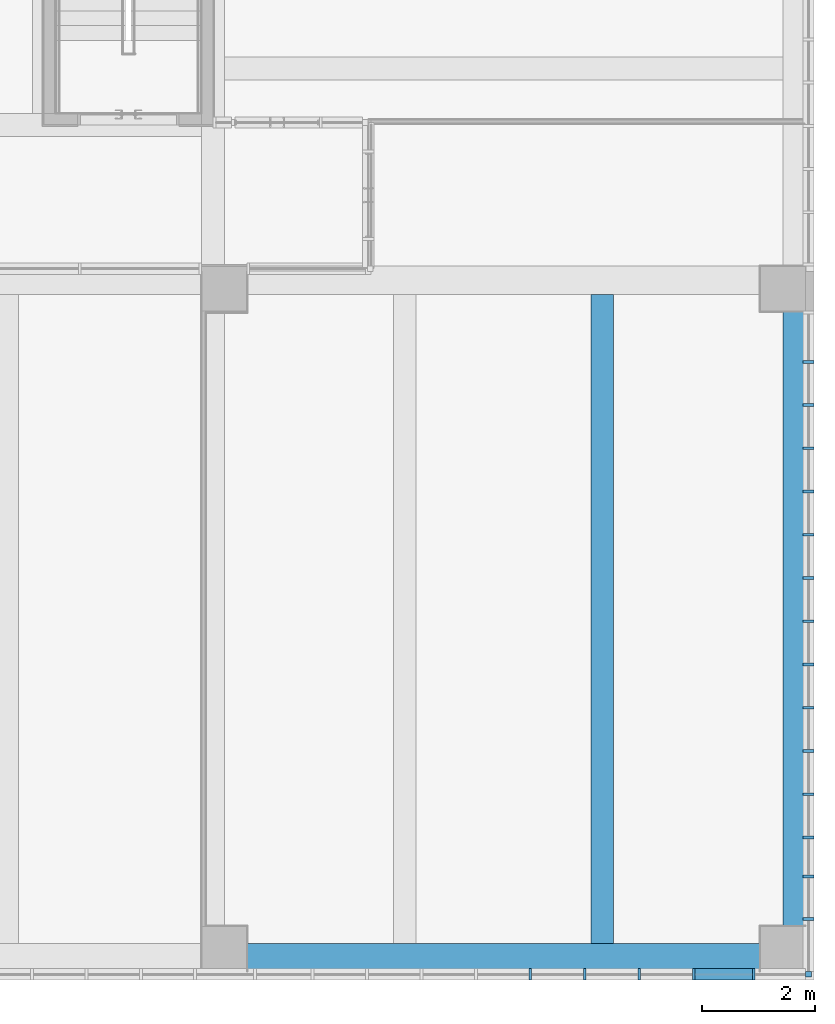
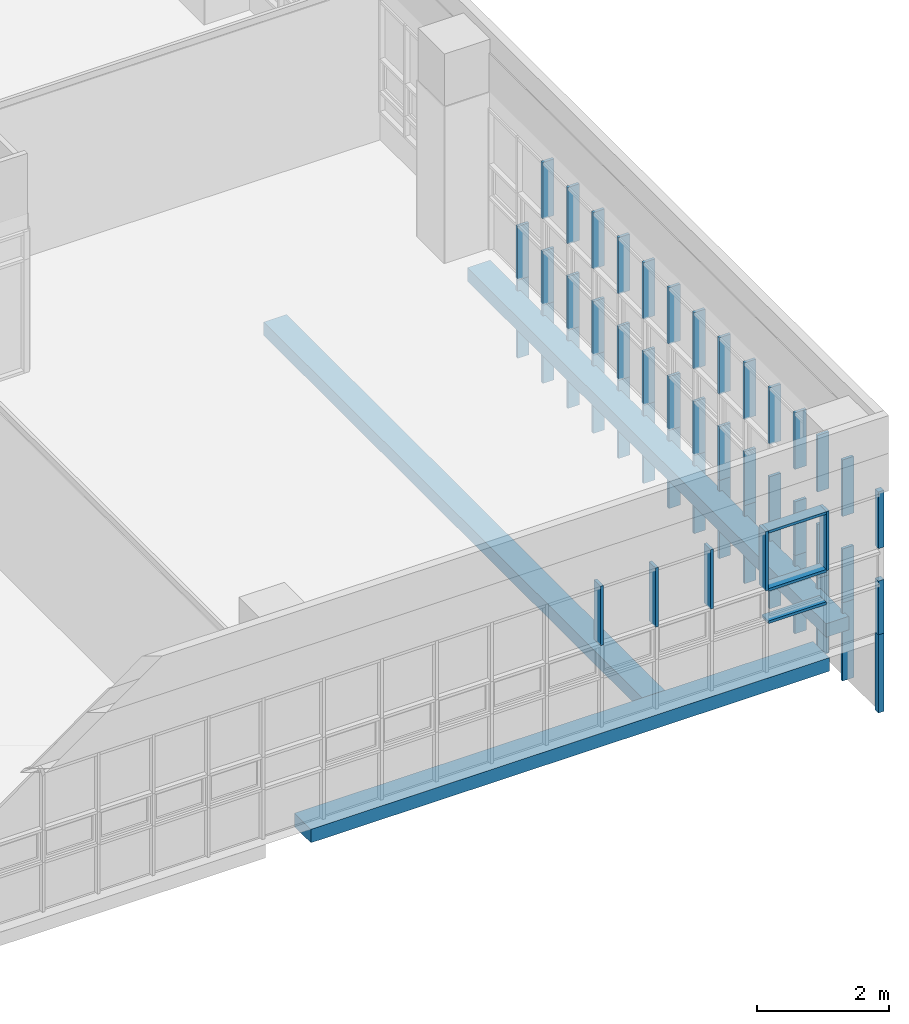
# One storey, part 7 of 81: 52 members, 3 beams, 2 elements without a shape of their own.
"""IFC2X3 building model written with IfcOpenShell, lengths in millimetres."""

import ifcopenshell
import ifcopenshell.guid

model = None  # the IFC model being written
_history = None  # IfcOwnerHistory: only IFC2X3 demands one
_inside = {}  # id of a spatial element -> (the spatial element, [elements in it])
_under = {}  # id of a project, library or spatial element -> (it, [spatial elements below it])
_declared = {}  # id of a project -> (the project, [libraries it declares])
_typed = {}  # id of a type object -> (the type object, [elements of that type])
_made_of = {}  # id of a material, layer set ... -> (it, [elements and type objects made of it])


def new_model(schema):
    """Start an empty IFC model of exactly this schema.

    Asked for "IFC4X3", IfcOpenShell would pick the latest addendum, in which some entities
    have other attributes; the version numbers below select the first issue.
    IFC2X3 requires an IfcOwnerHistory on every rooted entity: one is made here for all.
    """
    global model, _history
    if schema == "IFC4X3":
        model = ifcopenshell.file(schema_version=(4, 3, 0, 0))
    else:
        model = ifcopenshell.file(schema=schema)
    _inside.clear()
    _under.clear()
    _declared.clear()
    _typed.clear()
    _made_of.clear()
    _history = None
    if model.schema == "IFC2X3":
        org = make("IfcOrganization", Name="unknown")
        user = make(
            "IfcPersonAndOrganization",
            ThePerson=make("IfcPerson", FamilyName="unknown"),
            TheOrganization=org,
        )
        app = make(
            "IfcApplication",
            ApplicationDeveloper=org,
            Version="unknown",
            ApplicationFullName="unknown",
            ApplicationIdentifier="unknown",
        )
        _history = make(
            "IfcOwnerHistory",
            OwningUser=user,
            OwningApplication=app,
            ChangeAction="ADDED",
            CreationDate=0,
        )
    return model


def make(cls, **values):
    """One entity of the class cls with the attributes given. An attribute that is None is left unset."""
    return model.create_entity(
        cls, **{name: value for name, value in values.items() if value is not None}
    )


def entity(cls, *values):
    """Any entity or typed value of the class cls, its attributes in the order of the schema. None: left unset."""
    e = model.create_entity(cls)
    for i, value in enumerate(values):
        if value is not None:
            e[i] = value
    return e


def rooted(cls, **values):
    """An entity with a GlobalId (a new one), such as an element, a storey or a relation."""
    return make(cls, GlobalId=ifcopenshell.guid.new(), OwnerHistory=_history, **values)


def si_unit(unit_type, name, prefix=None):
    """IfcSIUnit, for example si_unit("LENGTHUNIT", "METRE", prefix="MILLI")."""
    return make("IfcSIUnit", UnitType=unit_type, Prefix=prefix, Name=name)


def converted_unit(unit_type, name, factor, base, dimensions=None, offset=None):
    """IfcConversionBasedUnit, such as the inch: factor (a typed value) times the base unit."""
    return make(
        "IfcConversionBasedUnit"
        if offset is None
        else "IfcConversionBasedUnitWithOffset",
        ConversionOffset=offset,
        Dimensions=None
        if dimensions is None
        else entity("IfcDimensionalExponents", *dimensions),
        UnitType=unit_type,
        Name=name,
        ConversionFactor=make(
            "IfcMeasureWithUnit", ValueComponent=factor, UnitComponent=base
        ),
    )


def derived_unit(unit_type, elements):
    """IfcDerivedUnit: a product of units, each with its exponent."""
    return make(
        "IfcDerivedUnit",
        Elements=[
            make("IfcDerivedUnitElement", Unit=unit, Exponent=power)
            for unit, power in elements
        ],
        UnitType=unit_type,
    )


def assignment(units):
    """IfcUnitAssignment: the units of a project."""
    return None if units is None else make("IfcUnitAssignment", Units=units)


def point(xyz):
    """IfcCartesianPoint."""
    return None if xyz is None else make("IfcCartesianPoint", Coordinates=xyz)


def direction(xyz):
    """IfcDirection."""
    return None if xyz is None else make("IfcDirection", DirectionRatios=xyz)


def frame(location, z_axis=None, x_axis=None):
    """IfcAxis2Placement3D, a coordinate frame: its origin and axes. An axis left out is left unset."""
    return make(
        "IfcAxis2Placement3D",
        Location=point(location),
        Axis=direction(z_axis),
        RefDirection=direction(x_axis),
    )


def frame_2d(location, x_axis=None):
    """IfcAxis2Placement2D, a coordinate frame in the plane: its origin and x axis."""
    return make(
        "IfcAxis2Placement2D", Location=point(location), RefDirection=direction(x_axis)
    )


def origin():
    """The frame at (0, 0, 0) with its axes left unset."""
    return frame((0.0, 0.0, 0.0))


def origin_2d_with_axis():
    """The frame at (0, 0) in the plane with the x axis (1, 0) written out."""
    return frame_2d((0.0, 0.0), x_axis=(1.0, 0.0))


def place(relative_to, where):
    """IfcLocalPlacement: puts the frame where relative to a parent placement (None: the world)."""
    return make(
        "IfcLocalPlacement", PlacementRelTo=relative_to, RelativePlacement=where
    )


def context(
    kind, dimensions, precision=None, world=None, true_north=None, identifier=None
):
    """IfcGeometricRepresentationContext, for example the 3D "Model" context."""
    return make(
        "IfcGeometricRepresentationContext",
        ContextIdentifier=identifier,
        ContextType=kind,
        CoordinateSpaceDimension=dimensions,
        Precision=precision,
        WorldCoordinateSystem=world,
        TrueNorth=true_north,
    )


def subcontext(parent, identifier, kind, view, scale=None):
    """IfcGeometricRepresentationSubContext, for example "Body" below "Model"."""
    return make(
        "IfcGeometricRepresentationSubContext",
        ContextIdentifier=identifier,
        ContextType=kind,
        ParentContext=parent,
        TargetScale=scale,
        TargetView=view,
    )


def project(units=None, contexts=None):
    """IfcProject with its units and contexts."""
    return rooted(
        "IfcProject",
        Name="project",
        RepresentationContexts=contexts,
        UnitsInContext=assignment(units),
    )


def spatial(cls, under=None, at=None, **own):
    """A site, building, storey or space (cls), placed at a placement, below another one or the project."""
    s = rooted(cls, ObjectPlacement=at, **own)
    if under is not None:
        _under.setdefault(under.id(), (under, []))[1].append(s)
    return s


def profile(cls, at=None, kind="AREA", **sizes):
    """A parametric profile (cls). Its sizes go by their IFC names, for example OverallWidth=200.0."""
    return make(cls, ProfileType=kind, Position=at, **sizes)


def rectangle(**sizes):
    """IfcRectangleProfileDef."""
    return profile("IfcRectangleProfileDef", **sizes)


def extrude(swept, where, along, depth):
    """IfcExtrudedAreaSolid: the profile swept, set in the frame where, extruded along a direction by depth."""
    return make(
        "IfcExtrudedAreaSolid",
        SweptArea=swept,
        Position=where,
        ExtrudedDirection=direction(along),
        Depth=depth,
    )


def shape(context_of_items, identifier, shape_type, items):
    """IfcShapeRepresentation: the items that make up one representation, for example the "Body"."""
    return make(
        "IfcShapeRepresentation",
        ContextOfItems=context_of_items,
        RepresentationIdentifier=identifier,
        RepresentationType=shape_type,
        Items=items,
    )


def source(mapping_origin, context_of_items, identifier, shape_type, items):
    """IfcRepresentationMap: a shape defined once, which mapped items show again and again."""
    return make(
        "IfcRepresentationMap",
        MappingOrigin=mapping_origin,
        MappedRepresentation=shape(context_of_items, identifier, shape_type, items),
    )


def transform(
    local_origin,
    x_axis=None,
    y_axis=None,
    z_axis=None,
    scale=None,
    scale2=None,
    scale3=None,
    uniform=True,
):
    """IfcCartesianTransformationOperator3D, or its non-uniform kind. x_axis, y_axis, z_axis: its Axis1, 2, 3."""
    if uniform:
        return make(
            "IfcCartesianTransformationOperator3D",
            Axis1=direction(x_axis),
            Axis2=direction(y_axis),
            LocalOrigin=point(local_origin),
            Scale=scale,
            Axis3=direction(z_axis),
        )
    return make(
        "IfcCartesianTransformationOperator3DnonUniform",
        Axis1=direction(x_axis),
        Axis2=direction(y_axis),
        LocalOrigin=point(local_origin),
        Scale=scale,
        Axis3=direction(z_axis),
        Scale2=scale2,
        Scale3=scale3,
    )


def mapped(mapping_source, mapping_target):
    """IfcMappedItem: shows the shape of a source again, moved by a transform."""
    return make(
        "IfcMappedItem", MappingSource=mapping_source, MappingTarget=mapping_target
    )


def material(Name=None, Category=None):
    """IfcMaterial."""
    return make("IfcMaterial", Name=Name, Category=Category)


def made_of(thing, what):
    """Note that an element or type object is made of a material, layer set ...; save() writes the relation."""
    if what is not None:
        _made_of.setdefault(what.id(), (what, []))[1].append(thing)
    return thing


def type_object(cls, material=None, **own):
    """A type object (cls), such as IfcWallType, which elements share."""
    return made_of(rooted(cls, **own), material)


def type_shapes(of_type, sources):
    """Give a type object the sources (RepresentationMaps) that its elements show as mapped items."""
    of_type.RepresentationMaps = sources


def element(
    cls,
    number,
    at=None,
    inside=None,
    cuts=None,
    type_object=None,
    material=None,
    context=None,
    identifier="Body",
    shape_type=None,
    held_by="IfcProductDefinitionShape",
    body=None,
    shapes=None,
    **own,
):
    """One element of the class cls, such as IfcWall. Its Tag is "e" and its number.

    at: its placement. inside: the storey or other place that contains it. cuts: it is an
    opening in that element (IfcRelVoidsElement). A single representation is given by context,
    identifier, shape_type and body (its items); several are given by shapes. held_by: the class
    of the entity that holds the representations. save() writes the other relations.
    """
    e = rooted(cls, Tag="e%d" % number, ObjectPlacement=at, **own)
    if body is not None:
        shapes = [shape(context, identifier, shape_type, body)]
    if shapes is not None:
        e.Representation = make(held_by, Representations=shapes)
    if inside is not None:
        _inside.setdefault(inside.id(), (inside, []))[1].append(e)
    if cuts is not None:
        rooted(
            "IfcRelVoidsElement", RelatingBuildingElement=cuts, RelatedOpeningElement=e
        )
    if type_object is not None:
        _typed.setdefault(type_object.id(), (type_object, []))[1].append(e)
    return made_of(e, material)


def aggregate(whole, parts):
    """IfcRelAggregates: a whole, such as a stair, and the parts it consists of."""
    return rooted("IfcRelAggregates", RelatingObject=whole, RelatedObjects=parts)


def save(model, path):
    """Write the relations noted so far, then the file.

    IfcRelAggregates (storeys below a building ...), IfcRelContainedInSpatialStructure (elements
    in a storey), IfcRelDefinesByType, IfcRelAssociatesMaterial and IfcRelDeclares: one each for
    every whole, place, type object, material and project.
    """
    for whole, parts in _under.values():
        aggregate(whole, parts)
    for where, things in _inside.values():
        rooted(
            "IfcRelContainedInSpatialStructure",
            RelatedElements=things,
            RelatingStructure=where,
        )
    for kind, things in _typed.values():
        rooted("IfcRelDefinesByType", RelatedObjects=things, RelatingType=kind)
    for what, things in _made_of.values():
        rooted("IfcRelAssociatesMaterial", RelatedObjects=things, RelatingMaterial=what)
    for by, libraries in _declared.values():
        rooted("IfcRelDeclares", RelatingContext=by, RelatedDefinitions=libraries)
    model.write(path)


model = new_model("IFC2X3")

# Units and contexts
model_context = context("Model", 3, precision=0.01, world=origin(), true_north=direction((6.123031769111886e-17, 1.0)))
body_context = subcontext(model_context, "Body", "Model", "MODEL_VIEW")
ifc_project = project(units=[si_unit("LENGTHUNIT", "METRE", prefix="MILLI"), si_unit("AREAUNIT", "SQUARE_METRE"), si_unit("VOLUMEUNIT", "CUBIC_METRE"), converted_unit("PLANEANGLEUNIT", "DEGREE", entity("IfcRatioMeasure", 0.017453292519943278), si_unit("PLANEANGLEUNIT", "RADIAN"), dimensions=[0, 0, 0, 0, 0, 0, 0]), si_unit("MASSUNIT", "GRAM", prefix="KILO"), derived_unit("MASSDENSITYUNIT", [(si_unit("MASSUNIT", "GRAM", prefix="KILO"), 1), (si_unit("LENGTHUNIT", "METRE"), -3)]), derived_unit("MOMENTOFINERTIAUNIT", [(si_unit("LENGTHUNIT", "METRE"), 4)]), si_unit("TIMEUNIT", "SECOND"), si_unit("FREQUENCYUNIT", "HERTZ"), si_unit("THERMODYNAMICTEMPERATUREUNIT", "DEGREE_CELSIUS"), derived_unit("THERMALTRANSMITTANCEUNIT", [(si_unit("MASSUNIT", "GRAM", prefix="KILO"), 1), (si_unit("THERMODYNAMICTEMPERATUREUNIT", "KELVIN"), -1), (si_unit("TIMEUNIT", "SECOND"), -3)]), derived_unit("VOLUMETRICFLOWRATEUNIT", [(si_unit("LENGTHUNIT", "METRE"), 3), (si_unit("TIMEUNIT", "SECOND"), -1)]), derived_unit("MASSFLOWRATEUNIT", [(si_unit("MASSUNIT", "GRAM", prefix="KILO"), 1), (si_unit("TIMEUNIT", "SECOND"), -1)]), derived_unit("ROTATIONALFREQUENCYUNIT", [(si_unit("TIMEUNIT", "SECOND"), -1)]), si_unit("ELECTRICCURRENTUNIT", "AMPERE"), si_unit("ELECTRICVOLTAGEUNIT", "VOLT"), si_unit("POWERUNIT", "WATT"), si_unit("FORCEUNIT", "NEWTON", prefix="KILO"), si_unit("ILLUMINANCEUNIT", "LUX"), si_unit("LUMINOUSFLUXUNIT", "LUMEN"), si_unit("LUMINOUSINTENSITYUNIT", "CANDELA"), derived_unit("USERDEFINED", [(si_unit("MASSUNIT", "GRAM", prefix="KILO"), -1), (si_unit("LENGTHUNIT", "METRE"), -2), (si_unit("TIMEUNIT", "SECOND"), 3), (si_unit("LUMINOUSFLUXUNIT", "LUMEN"), 1)]), derived_unit("SOUNDPOWERUNIT", [(si_unit("MASSUNIT", "GRAM", prefix="KILO"), 1), (si_unit("LENGTHUNIT", "METRE"), 2), (si_unit("TIMEUNIT", "SECOND"), -3)]), derived_unit("SOUNDPRESSUREUNIT", [(si_unit("MASSUNIT", "GRAM", prefix="KILO"), 1), (si_unit("LENGTHUNIT", "METRE"), -1), (si_unit("TIMEUNIT", "SECOND"), -2)]), derived_unit("LINEARVELOCITYUNIT", [(si_unit("LENGTHUNIT", "METRE"), 1), (si_unit("TIMEUNIT", "SECOND"), -1)]), si_unit("PRESSUREUNIT", "PASCAL"), derived_unit("USERDEFINED", [(si_unit("LENGTHUNIT", "METRE"), -2), (si_unit("MASSUNIT", "GRAM", prefix="KILO"), 1), (si_unit("TIMEUNIT", "SECOND"), -2)]), derived_unit("LINEARFORCEUNIT", [(si_unit("MASSUNIT", "GRAM", prefix="KILO"), 1), (si_unit("LENGTHUNIT", "METRE"), 1), (si_unit("TIMEUNIT", "SECOND"), -2), (si_unit("LENGTHUNIT", "METRE"), -1)]), derived_unit("PLANARFORCEUNIT", [(si_unit("MASSUNIT", "GRAM", prefix="KILO"), 1), (si_unit("LENGTHUNIT", "METRE"), 1), (si_unit("TIMEUNIT", "SECOND"), -2), (si_unit("LENGTHUNIT", "METRE"), -2)])], contexts=[model_context])

# Site, building, storey
site_placement = place(None, frame((-14167.972527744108, -657.2125860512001, 0.0)))
site = spatial("IfcSite", under=ifc_project, at=site_placement, Name="Default", CompositionType="ELEMENT")
building_placement = place(site_placement, origin())
building = spatial("IfcBuilding", under=site, at=building_placement, Name="Sample Building", CompositionType="ELEMENT")
storey_placement = place(building_placement, frame((0.0, 0.0, 13400.0)))
storey = spatial("IfcBuildingStorey", under=building, at=storey_placement, Name="지상 4층", CompositionType="ELEMENT", Elevation=13400.00000000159)

# Curtain wall, members
curtain_wall_type = type_object("IfcCurtainWallType", Name="커튼월:CW112-스테인리스 스틸 커튼월", PredefinedType="NOTDEFINED")
curtain_wall_1_placement = place(storey_placement, frame((0.0, 0.0, -13400.0)))
curtain_wall_1 = element("IfcCurtainWall", 1, at=curtain_wall_1_placement, inside=storey, type_object=curtain_wall_type, Name="커튼월:CW112-스테인리스 스틸 커튼월", ObjectType="커튼월:CW112-스테인리스 스틸 커튼월")
ifc_material_1 = material(Name="<Unnamed>")
member_type_1 = type_object("IfcMemberType", Name="직사각형 멀리언:CW200-직사각형 멀리언 50x200mm", PredefinedType="MULLION", material=ifc_material_1)
shared_shape_1 = source(origin(), body_context, "Body", "SweptSolid", [
    extrude(rectangle(XDim=200.0, YDim=50.0, at=origin_2d_with_axis()), frame((0.0, 0.0, -1100.0), z_axis=(0.0, 0.0, 1.0), x_axis=(0.0, -1.0, 0.0)), (0.0, 0.0, 1.0), 1100.0000000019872),
])
type_shapes(member_type_1, [shared_shape_1])
member_1_placement = place(curtain_wall_1_placement, frame((46590.15607007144, 507.2122951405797, 15000.0), z_axis=(0.0, 0.0, -1.0), x_axis=(1.0, 0.0, 0.0)))
member_1 = element("IfcMember", 2, at=member_1_placement, type_object=member_type_1, material=ifc_material_1, Name="직사각형 멀리언:CW200-직사각형 멀리언 50x200mm", ObjectType="직사각형 멀리언:CW200-직사각형 멀리언 50x200mm", context=body_context, shape_type="MappedRepresentation", body=[
    mapped(shared_shape_1, transform((0.0, 0.0, 0.0), scale=1.0)),
])
member_2_placement = place(curtain_wall_1_placement, frame((47555.15607007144, 507.21229514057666, 15000.0), z_axis=(0.0, 0.0, -1.0), x_axis=(1.0, 0.0, 0.0)))
member_2 = element("IfcMember", 3, at=member_2_placement, type_object=member_type_1, material=ifc_material_1, Name="직사각형 멀리언:CW200-직사각형 멀리언 50x200mm", ObjectType="직사각형 멀리언:CW200-직사각형 멀리언 50x200mm", context=body_context, shape_type="MappedRepresentation", body=[
    mapped(shared_shape_1, transform((0.0, 0.0, 0.0), scale=1.0)),
])
member_3_placement = place(curtain_wall_1_placement, frame((48520.15607007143, 507.21229514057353, 15000.0), z_axis=(0.0, 0.0, -1.0), x_axis=(1.0, 0.0, 0.0)))
member_3 = element("IfcMember", 4, at=member_3_placement, type_object=member_type_1, material=ifc_material_1, Name="직사각형 멀리언:CW200-직사각형 멀리언 50x200mm", ObjectType="직사각형 멀리언:CW200-직사각형 멀리언 50x200mm", context=body_context, shape_type="MappedRepresentation", body=[
    mapped(shared_shape_1, transform((0.0, 0.0, 0.0), scale=1.0)),
])
member_4_placement = place(curtain_wall_1_placement, frame((49485.15607007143, 507.2122951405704, 15000.0), z_axis=(0.0, 0.0, -1.0), x_axis=(1.0, 0.0, 0.0)))
member_4 = element("IfcMember", 5, at=member_4_placement, type_object=member_type_1, material=ifc_material_1, Name="직사각형 멀리언:CW200-직사각형 멀리언 50x200mm", ObjectType="직사각형 멀리언:CW200-직사각형 멀리언 50x200mm", context=body_context, shape_type="MappedRepresentation", body=[
    mapped(shared_shape_1, transform((0.0, 0.0, 0.0), scale=1.0)),
])
member_5_placement = place(curtain_wall_1_placement, frame((50550.15607007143, 507.21229514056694, 15000.0), z_axis=(0.0, 0.0, -1.0), x_axis=(1.0, 0.0, 0.0)))
member_5 = element("IfcMember", 6, at=member_5_placement, type_object=member_type_1, material=ifc_material_1, Name="직사각형 멀리언:CW200-직사각형 멀리언 50x200mm", ObjectType="직사각형 멀리언:CW200-직사각형 멀리언 50x200mm", context=body_context, shape_type="MappedRepresentation", body=[
    mapped(shared_shape_1, transform((0.0, 0.0, 0.0), scale=1.0)),
])
member_type_2 = type_object("IfcMemberType", Name="직사각형 멀리언:CW200-직사각형 멀리언 50x200mm", PredefinedType="MULLION", material=ifc_material_1)
shared_shape_2 = source(origin(), body_context, "Body", "SweptSolid", [
    extrude(rectangle(XDim=200.0, YDim=50.0, at=origin_2d_with_axis()), frame((-25.0, 0.0, -1015.0), z_axis=(0.0, 0.0, 1.0), x_axis=(0.0, -1.0, 0.0)), (0.0, 0.0, 1.0), 1015.000000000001),
])
type_shapes(member_type_2, [shared_shape_2])
member_6_placement = place(curtain_wall_1_placement, frame((50525.15607007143, 507.21229514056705, 16100.0), z_axis=(1.0, 0.0, 0.0), x_axis=(0.0, 0.0, 1.0)))
member_6 = element("IfcMember", 7, at=member_6_placement, type_object=member_type_2, material=ifc_material_1, Name="직사각형 멀리언:CW200-직사각형 멀리언 50x200mm", ObjectType="직사각형 멀리언:CW200-직사각형 멀리언 50x200mm", context=body_context, shape_type="MappedRepresentation", body=[
    mapped(shared_shape_2, transform((0.0, 0.0, 0.0), scale=1.0)),
])
member_type_3 = type_object("IfcMemberType", Name="직사각형 멀리언:CW200-직사각형 멀리언 50x200mm", PredefinedType="MULLION", material=ifc_material_1)
shared_shape_3 = source(origin(), body_context, "Body", "SweptSolid", [
    extrude(rectangle(XDim=200.0, YDim=50.0, at=origin_2d_with_axis()), frame((0.0, 0.0, -1015.0), z_axis=(0.0, 0.0, 1.0), x_axis=(0.0, -1.0, 0.0)), (0.0, 0.0, 1.0), 1014.9999999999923),
])
type_shapes(member_type_3, [shared_shape_3])
member_7_placement = place(curtain_wall_1_placement, frame((50525.15607007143, 507.21229514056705, 14400.0), z_axis=(1.0, 0.0, 0.0), x_axis=(0.0, 0.0, 1.0)))
member_7 = element("IfcMember", 8, at=member_7_placement, type_object=member_type_3, material=ifc_material_1, Name="직사각형 멀리언:CW200-직사각형 멀리언 50x200mm", ObjectType="직사각형 멀리언:CW200-직사각형 멀리언 50x200mm", context=body_context, shape_type="MappedRepresentation", body=[
    mapped(shared_shape_3, transform((0.0, 0.0, 0.0), scale=1.0)),
])
member_8_placement = place(curtain_wall_1_placement, frame((50525.15607007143, 507.21229514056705, 15000.0), z_axis=(1.0, 0.0, 0.0), x_axis=(0.0, 0.0, 1.0)))
member_8 = element("IfcMember", 9, at=member_8_placement, type_object=member_type_3, material=ifc_material_1, Name="직사각형 멀리언:CW200-직사각형 멀리언 50x200mm", ObjectType="직사각형 멀리언:CW200-직사각형 멀리언 50x200mm", context=body_context, shape_type="MappedRepresentation", body=[
    mapped(shared_shape_3, transform((0.0, 0.0, 0.0), scale=1.0)),
])
aggregate(curtain_wall_1, [member_6, member_7, member_8, member_1, member_2, member_3, member_4, member_5])

curtain_wall_2_placement = place(storey_placement, frame((0.0, 0.0, -13400.0)))
curtain_wall_2 = element("IfcCurtainWall", 10, at=curtain_wall_2_placement, inside=storey, type_object=curtain_wall_type, Name="커튼월:CW112-스테인리스 스틸 커튼월", ObjectType="커튼월:CW112-스테인리스 스틸 커튼월")
member_type_4 = type_object("IfcMemberType", Name="직사각형 멀리언:CW200-직사각형 멀리언 100 x 100mm", PredefinedType="MULLION", material=ifc_material_1)
shared_shape_4 = source(origin(), body_context, "Body", "SweptSolid", [
    extrude(rectangle(XDim=100.0, YDim=100.0, at=origin_2d_with_axis()), frame((-50.0, 0.0, -1450.0), z_axis=(0.0, 0.0, 1.0), x_axis=(0.0, -1.0, 0.0)), (0.0, 0.0, 1.0), 1449.9999999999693),
])
type_shapes(member_type_4, [shared_shape_4])
member_9_placement = place(curtain_wall_2_placement, frame((51517.96382893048, 457.17762439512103, 12000.0), z_axis=(0.0, 0.0, -1.0), x_axis=(0.0, -1.0, 0.0)))
member_9 = element("IfcMember", 11, at=member_9_placement, type_object=member_type_4, material=ifc_material_1, Name="직사각형 멀리언:CW200-직사각형 멀리언 100 x 100mm", ObjectType="직사각형 멀리언:CW200-직사각형 멀리언 100 x 100mm", context=body_context, shape_type="MappedRepresentation", body=[
    mapped(shared_shape_4, transform((0.0, 0.0, 0.0), scale=1.0)),
])
member_type_5 = type_object("IfcMemberType", Name="직사각형 멀리언:CW200-직사각형 멀리언 100 x 100mm", PredefinedType="MULLION", material=ifc_material_1)
shared_shape_5 = source(origin(), body_context, "Body", "SweptSolid", [
    extrude(rectangle(XDim=99.99999999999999, YDim=100.0, at=origin_2d_with_axis()), frame((-50.0, 0.0, -1050.0), z_axis=(0.0, 0.0, 1.0), x_axis=(0.0, -1.0, 0.0)), (0.0, 0.0, 1.0), 1050.0000000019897),
])
type_shapes(member_type_5, [shared_shape_5])
member_10_placement = place(curtain_wall_2_placement, frame((51517.96382893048, 457.17762439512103, 15050.0), z_axis=(0.0, 0.0, -1.0), x_axis=(0.0, -1.0, 0.0)))
member_10 = element("IfcMember", 12, at=member_10_placement, type_object=member_type_5, material=ifc_material_1, Name="직사각형 멀리언:CW200-직사각형 멀리언 100 x 100mm", ObjectType="직사각형 멀리언:CW200-직사각형 멀리언 100 x 100mm", context=body_context, shape_type="MappedRepresentation", body=[
    mapped(shared_shape_5, transform((0.0, 0.0, 0.0), scale=1.0)),
])
member_type_6 = type_object("IfcMemberType", Name="직사각형 멀리언:CW200-직사각형 멀리언 50x200mm", PredefinedType="MULLION", material=ifc_material_1)
shared_shape_6 = source(origin(), body_context, "Body", "SweptSolid", [
    extrude(rectangle(XDim=200.0, YDim=50.0, at=origin_2d_with_axis()), frame((0.0, 0.0, -1450.0), z_axis=(0.0, 0.0, 1.0), x_axis=(0.0, -1.0, 0.0)), (0.0, 0.0, 1.0), 1449.9999999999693),
])
type_shapes(member_type_6, [shared_shape_6])
member_11_placement = place(curtain_wall_2_placement, frame((51517.96382893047, 3699.7830363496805, 12000.0), z_axis=(0.0, 0.0, -1.0), x_axis=(0.0, -1.0, 0.0)))
member_11 = element("IfcMember", 13, at=member_11_placement, type_object=member_type_6, material=ifc_material_1, Name="직사각형 멀리언:CW200-직사각형 멀리언 50x200mm", ObjectType="직사각형 멀리언:CW200-직사각형 멀리언 50x200mm", context=body_context, shape_type="MappedRepresentation", body=[
    mapped(shared_shape_6, transform((0.0, 0.0, 0.0), scale=1.0)),
])
member_12_placement = place(curtain_wall_2_placement, frame((51517.96382893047, 2933.7830363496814, 12000.0), z_axis=(0.0, 0.0, -1.0), x_axis=(0.0, -1.0, 0.0)))
member_12 = element("IfcMember", 14, at=member_12_placement, type_object=member_type_6, material=ifc_material_1, Name="직사각형 멀리언:CW200-직사각형 멀리언 50x200mm", ObjectType="직사각형 멀리언:CW200-직사각형 멀리언 50x200mm", context=body_context, shape_type="MappedRepresentation", body=[
    mapped(shared_shape_6, transform((0.0, 0.0, 0.0), scale=1.0)),
])
member_13_placement = place(curtain_wall_2_placement, frame((51517.96382893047, 2241.783036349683, 12000.0), z_axis=(0.0, 0.0, -1.0), x_axis=(0.0, -1.0, 0.0)))
member_13 = element("IfcMember", 15, at=member_13_placement, type_object=member_type_6, material=ifc_material_1, Name="직사각형 멀리언:CW200-직사각형 멀리언 50x200mm", ObjectType="직사각형 멀리언:CW200-직사각형 멀리언 50x200mm", context=body_context, shape_type="MappedRepresentation", body=[
    mapped(shared_shape_6, transform((0.0, 0.0, 0.0), scale=1.0)),
])
member_14_placement = place(curtain_wall_2_placement, frame((51517.96382893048, 1489.7830363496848, 12000.0), z_axis=(0.0, 0.0, -1.0), x_axis=(0.0, -1.0, 0.0)))
member_14 = element("IfcMember", 16, at=member_14_placement, type_object=member_type_6, material=ifc_material_1, Name="직사각형 멀리언:CW200-직사각형 멀리언 50x200mm", ObjectType="직사각형 멀리언:CW200-직사각형 멀리언 50x200mm", context=body_context, shape_type="MappedRepresentation", body=[
    mapped(shared_shape_6, transform((0.0, 0.0, 0.0), scale=1.0)),
])
member_15_placement = place(curtain_wall_2_placement, frame((51517.96382893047, 4465.78303634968, 12000.0), z_axis=(0.0, 0.0, -1.0), x_axis=(0.0, -1.0, 0.0)))
member_15 = element("IfcMember", 17, at=member_15_placement, type_object=member_type_6, material=ifc_material_1, Name="직사각형 멀리언:CW200-직사각형 멀리언 50x200mm", ObjectType="직사각형 멀리언:CW200-직사각형 멀리언 50x200mm", context=body_context, shape_type="MappedRepresentation", body=[
    mapped(shared_shape_6, transform((0.0, 0.0, 0.0), scale=1.0)),
])
member_16_placement = place(curtain_wall_2_placement, frame((51517.96382893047, 5231.783036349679, 12000.0), z_axis=(0.0, 0.0, -1.0), x_axis=(0.0, -1.0, 0.0)))
member_16 = element("IfcMember", 18, at=member_16_placement, type_object=member_type_6, material=ifc_material_1, Name="직사각형 멀리언:CW200-직사각형 멀리언 50x200mm", ObjectType="직사각형 멀리언:CW200-직사각형 멀리언 50x200mm", context=body_context, shape_type="MappedRepresentation", body=[
    mapped(shared_shape_6, transform((0.0, 0.0, 0.0), scale=1.0)),
])
member_17_placement = place(curtain_wall_2_placement, frame((51517.96382893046, 5997.783036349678, 12000.0), z_axis=(0.0, 0.0, -1.0), x_axis=(0.0, -1.0, 0.0)))
member_17 = element("IfcMember", 19, at=member_17_placement, type_object=member_type_6, material=ifc_material_1, Name="직사각형 멀리언:CW200-직사각형 멀리언 50x200mm", ObjectType="직사각형 멀리언:CW200-직사각형 멀리언 50x200mm", context=body_context, shape_type="MappedRepresentation", body=[
    mapped(shared_shape_6, transform((0.0, 0.0, 0.0), scale=1.0)),
])
member_18_placement = place(curtain_wall_2_placement, frame((51517.96382893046, 6763.783036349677, 12000.0), z_axis=(0.0, 0.0, -1.0), x_axis=(0.0, -1.0, 0.0)))
member_18 = element("IfcMember", 20, at=member_18_placement, type_object=member_type_6, material=ifc_material_1, Name="직사각형 멀리언:CW200-직사각형 멀리언 50x200mm", ObjectType="직사각형 멀리언:CW200-직사각형 멀리언 50x200mm", context=body_context, shape_type="MappedRepresentation", body=[
    mapped(shared_shape_6, transform((0.0, 0.0, 0.0), scale=1.0)),
])
member_19_placement = place(curtain_wall_2_placement, frame((51517.96382893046, 7529.783036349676, 12000.0), z_axis=(0.0, 0.0, -1.0), x_axis=(0.0, -1.0, 0.0)))
member_19 = element("IfcMember", 21, at=member_19_placement, type_object=member_type_6, material=ifc_material_1, Name="직사각형 멀리언:CW200-직사각형 멀리언 50x200mm", ObjectType="직사각형 멀리언:CW200-직사각형 멀리언 50x200mm", context=body_context, shape_type="MappedRepresentation", body=[
    mapped(shared_shape_6, transform((0.0, 0.0, 0.0), scale=1.0)),
])
member_20_placement = place(curtain_wall_2_placement, frame((51517.96382893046, 8295.783036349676, 12000.0), z_axis=(0.0, 0.0, -1.0), x_axis=(0.0, -1.0, 0.0)))
member_20 = element("IfcMember", 22, at=member_20_placement, type_object=member_type_6, material=ifc_material_1, Name="직사각형 멀리언:CW200-직사각형 멀리언 50x200mm", ObjectType="직사각형 멀리언:CW200-직사각형 멀리언 50x200mm", context=body_context, shape_type="MappedRepresentation", body=[
    mapped(shared_shape_6, transform((0.0, 0.0, 0.0), scale=1.0)),
])
member_21_placement = place(curtain_wall_2_placement, frame((51517.96382893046, 9061.783036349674, 12000.0), z_axis=(0.0, 0.0, -1.0), x_axis=(0.0, -1.0, 0.0)))
member_21 = element("IfcMember", 23, at=member_21_placement, type_object=member_type_6, material=ifc_material_1, Name="직사각형 멀리언:CW200-직사각형 멀리언 50x200mm", ObjectType="직사각형 멀리언:CW200-직사각형 멀리언 50x200mm", context=body_context, shape_type="MappedRepresentation", body=[
    mapped(shared_shape_6, transform((0.0, 0.0, 0.0), scale=1.0)),
])
member_type_7 = type_object("IfcMemberType", Name="직사각형 멀리언:CW200-직사각형 멀리언 50x200mm", PredefinedType="MULLION", material=ifc_material_1)
shared_shape_7 = source(origin(), body_context, "Body", "SweptSolid", [
    extrude(rectangle(XDim=200.0, YDim=50.0, at=origin_2d_with_axis()), frame((0.0, 0.0, -1050.0), z_axis=(0.0, 0.0, 1.0), x_axis=(0.0, -1.0, 0.0)), (0.0, 0.0, 1.0), 1050.0000000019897),
])
type_shapes(member_type_7, [shared_shape_7])
member_22_placement = place(curtain_wall_2_placement, frame((51517.96382893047, 3699.7830363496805, 15050.0), z_axis=(0.0, 0.0, -1.0), x_axis=(0.0, -1.0, 0.0)))
member_22 = element("IfcMember", 24, at=member_22_placement, type_object=member_type_7, material=ifc_material_1, Name="직사각형 멀리언:CW200-직사각형 멀리언 50x200mm", ObjectType="직사각형 멀리언:CW200-직사각형 멀리언 50x200mm", context=body_context, shape_type="MappedRepresentation", body=[
    mapped(shared_shape_7, transform((0.0, 0.0, 0.0), scale=1.0)),
])
member_23_placement = place(curtain_wall_2_placement, frame((51517.96382893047, 2933.7830363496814, 15050.0), z_axis=(0.0, 0.0, -1.0), x_axis=(0.0, -1.0, 0.0)))
member_23 = element("IfcMember", 25, at=member_23_placement, type_object=member_type_7, material=ifc_material_1, Name="직사각형 멀리언:CW200-직사각형 멀리언 50x200mm", ObjectType="직사각형 멀리언:CW200-직사각형 멀리언 50x200mm", context=body_context, shape_type="MappedRepresentation", body=[
    mapped(shared_shape_7, transform((0.0, 0.0, 0.0), scale=1.0)),
])
member_24_placement = place(curtain_wall_2_placement, frame((51517.96382893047, 2241.783036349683, 15050.0), z_axis=(0.0, 0.0, -1.0), x_axis=(0.0, -1.0, 0.0)))
member_24 = element("IfcMember", 26, at=member_24_placement, type_object=member_type_7, material=ifc_material_1, Name="직사각형 멀리언:CW200-직사각형 멀리언 50x200mm", ObjectType="직사각형 멀리언:CW200-직사각형 멀리언 50x200mm", context=body_context, shape_type="MappedRepresentation", body=[
    mapped(shared_shape_7, transform((0.0, 0.0, 0.0), scale=1.0)),
])
member_25_placement = place(curtain_wall_2_placement, frame((51517.96382893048, 1489.7830363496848, 15050.0), z_axis=(0.0, 0.0, -1.0), x_axis=(0.0, -1.0, 0.0)))
member_25 = element("IfcMember", 27, at=member_25_placement, type_object=member_type_7, material=ifc_material_1, Name="직사각형 멀리언:CW200-직사각형 멀리언 50x200mm", ObjectType="직사각형 멀리언:CW200-직사각형 멀리언 50x200mm", context=body_context, shape_type="MappedRepresentation", body=[
    mapped(shared_shape_7, transform((0.0, 0.0, 0.0), scale=1.0)),
])
member_26_placement = place(curtain_wall_2_placement, frame((51517.96382893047, 4465.78303634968, 15050.0), z_axis=(0.0, 0.0, -1.0), x_axis=(0.0, -1.0, 0.0)))
member_26 = element("IfcMember", 28, at=member_26_placement, type_object=member_type_7, material=ifc_material_1, Name="직사각형 멀리언:CW200-직사각형 멀리언 50x200mm", ObjectType="직사각형 멀리언:CW200-직사각형 멀리언 50x200mm", context=body_context, shape_type="MappedRepresentation", body=[
    mapped(shared_shape_7, transform((0.0, 0.0, 0.0), scale=1.0)),
])
member_27_placement = place(curtain_wall_2_placement, frame((51517.96382893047, 5231.783036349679, 15050.0), z_axis=(0.0, 0.0, -1.0), x_axis=(0.0, -1.0, 0.0)))
member_27 = element("IfcMember", 29, at=member_27_placement, type_object=member_type_7, material=ifc_material_1, Name="직사각형 멀리언:CW200-직사각형 멀리언 50x200mm", ObjectType="직사각형 멀리언:CW200-직사각형 멀리언 50x200mm", context=body_context, shape_type="MappedRepresentation", body=[
    mapped(shared_shape_7, transform((0.0, 0.0, 0.0), scale=1.0)),
])
member_28_placement = place(curtain_wall_2_placement, frame((51517.96382893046, 5997.783036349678, 15050.0), z_axis=(0.0, 0.0, -1.0), x_axis=(0.0, -1.0, 0.0)))
member_28 = element("IfcMember", 30, at=member_28_placement, type_object=member_type_7, material=ifc_material_1, Name="직사각형 멀리언:CW200-직사각형 멀리언 50x200mm", ObjectType="직사각형 멀리언:CW200-직사각형 멀리언 50x200mm", context=body_context, shape_type="MappedRepresentation", body=[
    mapped(shared_shape_7, transform((0.0, 0.0, 0.0), scale=1.0)),
])
member_29_placement = place(curtain_wall_2_placement, frame((51517.96382893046, 6763.783036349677, 15050.0), z_axis=(0.0, 0.0, -1.0), x_axis=(0.0, -1.0, 0.0)))
member_29 = element("IfcMember", 31, at=member_29_placement, type_object=member_type_7, material=ifc_material_1, Name="직사각형 멀리언:CW200-직사각형 멀리언 50x200mm", ObjectType="직사각형 멀리언:CW200-직사각형 멀리언 50x200mm", context=body_context, shape_type="MappedRepresentation", body=[
    mapped(shared_shape_7, transform((0.0, 0.0, 0.0), scale=1.0)),
])
member_30_placement = place(curtain_wall_2_placement, frame((51517.96382893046, 7529.783036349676, 15050.0), z_axis=(0.0, 0.0, -1.0), x_axis=(0.0, -1.0, 0.0)))
member_30 = element("IfcMember", 32, at=member_30_placement, type_object=member_type_7, material=ifc_material_1, Name="직사각형 멀리언:CW200-직사각형 멀리언 50x200mm", ObjectType="직사각형 멀리언:CW200-직사각형 멀리언 50x200mm", context=body_context, shape_type="MappedRepresentation", body=[
    mapped(shared_shape_7, transform((0.0, 0.0, 0.0), scale=1.0)),
])
member_31_placement = place(curtain_wall_2_placement, frame((51517.96382893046, 8295.783036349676, 15050.0), z_axis=(0.0, 0.0, -1.0), x_axis=(0.0, -1.0, 0.0)))
member_31 = element("IfcMember", 33, at=member_31_placement, type_object=member_type_7, material=ifc_material_1, Name="직사각형 멀리언:CW200-직사각형 멀리언 50x200mm", ObjectType="직사각형 멀리언:CW200-직사각형 멀리언 50x200mm", context=body_context, shape_type="MappedRepresentation", body=[
    mapped(shared_shape_7, transform((0.0, 0.0, 0.0), scale=1.0)),
])
member_32_placement = place(curtain_wall_2_placement, frame((51517.96382893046, 9061.783036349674, 15050.0), z_axis=(0.0, 0.0, -1.0), x_axis=(0.0, -1.0, 0.0)))
member_32 = element("IfcMember", 34, at=member_32_placement, type_object=member_type_7, material=ifc_material_1, Name="직사각형 멀리언:CW200-직사각형 멀리언 50x200mm", ObjectType="직사각형 멀리언:CW200-직사각형 멀리언 50x200mm", context=body_context, shape_type="MappedRepresentation", body=[
    mapped(shared_shape_7, transform((0.0, 0.0, 0.0), scale=1.0)),
])
member_type_8 = type_object("IfcMemberType", Name="직사각형 멀리언:CW200-직사각형 멀리언 100 x 100mm", PredefinedType="MULLION", material=ifc_material_1)
shared_shape_8 = source(origin(), body_context, "Body", "SweptSolid", [
    extrude(rectangle(XDim=99.99999999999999, YDim=100.0, at=origin_2d_with_axis()), frame((-50.0, 0.0, -1000.0), z_axis=(0.0, 0.0, 1.0), x_axis=(0.0, -1.0, 0.0)), (0.0, 0.0, 1.0), 999.999999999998),
])
type_shapes(member_type_8, [shared_shape_8])
member_33_placement = place(curtain_wall_2_placement, frame((51517.96382893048, 457.17762439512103, 13450.0), z_axis=(0.0, 0.0, -1.0), x_axis=(0.0, -1.0, 0.0)))
member_33 = element("IfcMember", 35, at=member_33_placement, type_object=member_type_8, material=ifc_material_1, Name="직사각형 멀리언:CW200-직사각형 멀리언 100 x 100mm", ObjectType="직사각형 멀리언:CW200-직사각형 멀리언 100 x 100mm", context=body_context, shape_type="MappedRepresentation", body=[
    mapped(shared_shape_8, transform((0.0, 0.0, 0.0), scale=1.0)),
])
member_type_9 = type_object("IfcMemberType", Name="직사각형 멀리언:CW200-직사각형 멀리언 50x200mm", PredefinedType="MULLION", material=ifc_material_1)
shared_shape_9 = source(origin(), body_context, "Body", "SweptSolid", [
    extrude(rectangle(XDim=200.0, YDim=50.0, at=origin_2d_with_axis()), frame((0.0, 0.0, -1000.0), z_axis=(0.0, 0.0, 1.0), x_axis=(0.0, -1.0, 0.0)), (0.0, 0.0, 1.0), 999.999999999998),
])
type_shapes(member_type_9, [shared_shape_9])
member_34_placement = place(curtain_wall_2_placement, frame((51517.96382893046, 9061.783036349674, 13450.0), z_axis=(0.0, 0.0, -1.0), x_axis=(0.0, -1.0, 0.0)))
member_34 = element("IfcMember", 36, at=member_34_placement, type_object=member_type_9, material=ifc_material_1, Name="직사각형 멀리언:CW200-직사각형 멀리언 50x200mm", ObjectType="직사각형 멀리언:CW200-직사각형 멀리언 50x200mm", context=body_context, shape_type="MappedRepresentation", body=[
    mapped(shared_shape_9, transform((0.0, 0.0, 0.0), scale=1.0)),
])
member_35_placement = place(curtain_wall_2_placement, frame((51517.96382893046, 8295.783036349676, 13450.0), z_axis=(0.0, 0.0, -1.0), x_axis=(0.0, -1.0, 0.0)))
member_35 = element("IfcMember", 37, at=member_35_placement, type_object=member_type_9, material=ifc_material_1, Name="직사각형 멀리언:CW200-직사각형 멀리언 50x200mm", ObjectType="직사각형 멀리언:CW200-직사각형 멀리언 50x200mm", context=body_context, shape_type="MappedRepresentation", body=[
    mapped(shared_shape_9, transform((0.0, 0.0, 0.0), scale=1.0)),
])
member_36_placement = place(curtain_wall_2_placement, frame((51517.96382893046, 7529.783036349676, 13450.0), z_axis=(0.0, 0.0, -1.0), x_axis=(0.0, -1.0, 0.0)))
member_36 = element("IfcMember", 38, at=member_36_placement, type_object=member_type_9, material=ifc_material_1, Name="직사각형 멀리언:CW200-직사각형 멀리언 50x200mm", ObjectType="직사각형 멀리언:CW200-직사각형 멀리언 50x200mm", context=body_context, shape_type="MappedRepresentation", body=[
    mapped(shared_shape_9, transform((0.0, 0.0, 0.0), scale=1.0)),
])
member_37_placement = place(curtain_wall_2_placement, frame((51517.96382893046, 6763.783036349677, 13450.0), z_axis=(0.0, 0.0, -1.0), x_axis=(0.0, -1.0, 0.0)))
member_37 = element("IfcMember", 39, at=member_37_placement, type_object=member_type_9, material=ifc_material_1, Name="직사각형 멀리언:CW200-직사각형 멀리언 50x200mm", ObjectType="직사각형 멀리언:CW200-직사각형 멀리언 50x200mm", context=body_context, shape_type="MappedRepresentation", body=[
    mapped(shared_shape_9, transform((0.0, 0.0, 0.0), scale=1.0)),
])
member_38_placement = place(curtain_wall_2_placement, frame((51517.96382893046, 5997.783036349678, 13450.0), z_axis=(0.0, 0.0, -1.0), x_axis=(0.0, -1.0, 0.0)))
member_38 = element("IfcMember", 40, at=member_38_placement, type_object=member_type_9, material=ifc_material_1, Name="직사각형 멀리언:CW200-직사각형 멀리언 50x200mm", ObjectType="직사각형 멀리언:CW200-직사각형 멀리언 50x200mm", context=body_context, shape_type="MappedRepresentation", body=[
    mapped(shared_shape_9, transform((0.0, 0.0, 0.0), scale=1.0)),
])
member_39_placement = place(curtain_wall_2_placement, frame((51517.96382893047, 5231.783036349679, 13450.0), z_axis=(0.0, 0.0, -1.0), x_axis=(0.0, -1.0, 0.0)))
member_39 = element("IfcMember", 41, at=member_39_placement, type_object=member_type_9, material=ifc_material_1, Name="직사각형 멀리언:CW200-직사각형 멀리언 50x200mm", ObjectType="직사각형 멀리언:CW200-직사각형 멀리언 50x200mm", context=body_context, shape_type="MappedRepresentation", body=[
    mapped(shared_shape_9, transform((0.0, 0.0, 0.0), scale=1.0)),
])
member_40_placement = place(curtain_wall_2_placement, frame((51517.96382893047, 4465.78303634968, 13450.0), z_axis=(0.0, 0.0, -1.0), x_axis=(0.0, -1.0, 0.0)))
member_40 = element("IfcMember", 42, at=member_40_placement, type_object=member_type_9, material=ifc_material_1, Name="직사각형 멀리언:CW200-직사각형 멀리언 50x200mm", ObjectType="직사각형 멀리언:CW200-직사각형 멀리언 50x200mm", context=body_context, shape_type="MappedRepresentation", body=[
    mapped(shared_shape_9, transform((0.0, 0.0, 0.0), scale=1.0)),
])
member_41_placement = place(curtain_wall_2_placement, frame((51517.96382893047, 3699.7830363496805, 13450.0), z_axis=(0.0, 0.0, -1.0), x_axis=(0.0, -1.0, 0.0)))
member_41 = element("IfcMember", 43, at=member_41_placement, type_object=member_type_9, material=ifc_material_1, Name="직사각형 멀리언:CW200-직사각형 멀리언 50x200mm", ObjectType="직사각형 멀리언:CW200-직사각형 멀리언 50x200mm", context=body_context, shape_type="MappedRepresentation", body=[
    mapped(shared_shape_9, transform((0.0, 0.0, 0.0), scale=1.0)),
])
member_42_placement = place(curtain_wall_2_placement, frame((51517.96382893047, 2933.7830363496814, 13450.0), z_axis=(0.0, 0.0, -1.0), x_axis=(0.0, -1.0, 0.0)))
member_42 = element("IfcMember", 44, at=member_42_placement, type_object=member_type_9, material=ifc_material_1, Name="직사각형 멀리언:CW200-직사각형 멀리언 50x200mm", ObjectType="직사각형 멀리언:CW200-직사각형 멀리언 50x200mm", context=body_context, shape_type="MappedRepresentation", body=[
    mapped(shared_shape_9, transform((0.0, 0.0, 0.0), scale=1.0)),
])
member_43_placement = place(curtain_wall_2_placement, frame((51517.96382893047, 2241.783036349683, 13450.0), z_axis=(0.0, 0.0, -1.0), x_axis=(0.0, -1.0, 0.0)))
member_43 = element("IfcMember", 45, at=member_43_placement, type_object=member_type_9, material=ifc_material_1, Name="직사각형 멀리언:CW200-직사각형 멀리언 50x200mm", ObjectType="직사각형 멀리언:CW200-직사각형 멀리언 50x200mm", context=body_context, shape_type="MappedRepresentation", body=[
    mapped(shared_shape_9, transform((0.0, 0.0, 0.0), scale=1.0)),
])
member_44_placement = place(curtain_wall_2_placement, frame((51517.96382893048, 1489.7830363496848, 13450.0), z_axis=(0.0, 0.0, -1.0), x_axis=(0.0, -1.0, 0.0)))
member_44 = element("IfcMember", 46, at=member_44_placement, type_object=member_type_9, material=ifc_material_1, Name="직사각형 멀리언:CW200-직사각형 멀리언 50x200mm", ObjectType="직사각형 멀리언:CW200-직사각형 멀리언 50x200mm", context=body_context, shape_type="MappedRepresentation", body=[
    mapped(shared_shape_9, transform((0.0, 0.0, 0.0), scale=1.0)),
])
member_45_placement = place(curtain_wall_2_placement, frame((51517.96382893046, 9827.783036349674, 13450.0), z_axis=(0.0, 0.0, -1.0), x_axis=(0.0, -1.0, 0.0)))
member_45 = element("IfcMember", 47, at=member_45_placement, type_object=member_type_9, material=ifc_material_1, Name="직사각형 멀리언:CW200-직사각형 멀리언 50x200mm", ObjectType="직사각형 멀리언:CW200-직사각형 멀리언 50x200mm", context=body_context, shape_type="MappedRepresentation", body=[
    mapped(shared_shape_9, transform((0.0, 0.0, 0.0), scale=1.0)),
])
member_46_placement = place(curtain_wall_2_placement, frame((51517.96382893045, 10593.783036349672, 13450.0), z_axis=(0.0, 0.0, -1.0), x_axis=(0.0, -1.0, 0.0)))
member_46 = element("IfcMember", 48, at=member_46_placement, type_object=member_type_9, material=ifc_material_1, Name="직사각형 멀리언:CW200-직사각형 멀리언 50x200mm", ObjectType="직사각형 멀리언:CW200-직사각형 멀리언 50x200mm", context=body_context, shape_type="MappedRepresentation", body=[
    mapped(shared_shape_9, transform((0.0, 0.0, 0.0), scale=1.0)),
])
member_47_placement = place(curtain_wall_2_placement, frame((51517.96382893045, 11359.783036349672, 13450.0), z_axis=(0.0, 0.0, -1.0), x_axis=(0.0, -1.0, 0.0)))
member_47 = element("IfcMember", 49, at=member_47_placement, type_object=member_type_9, material=ifc_material_1, Name="직사각형 멀리언:CW200-직사각형 멀리언 50x200mm", ObjectType="직사각형 멀리언:CW200-직사각형 멀리언 50x200mm", context=body_context, shape_type="MappedRepresentation", body=[
    mapped(shared_shape_9, transform((0.0, 0.0, 0.0), scale=1.0)),
])
member_type_10 = type_object("IfcMemberType", Name="직사각형 멀리언:CW200-직사각형 멀리언 50x200mm", PredefinedType="MULLION", material=ifc_material_1)
shared_shape_10 = source(origin(), body_context, "Body", "SweptSolid", [
    extrude(rectangle(XDim=200.0, YDim=50.0, at=origin_2d_with_axis()), frame((0.0, 0.0, -1450.0), z_axis=(0.0, 0.0, 1.0), x_axis=(0.0, -1.0, 0.0)), (0.0, 0.0, 1.0), 1449.9999999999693),
])
type_shapes(member_type_10, [shared_shape_10])
member_48_placement = place(curtain_wall_2_placement, frame((51517.96382893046, 9827.783036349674, 12000.0), z_axis=(0.0, 0.0, -1.0), x_axis=(0.0, -1.0, 0.0)))
member_48 = element("IfcMember", 50, at=member_48_placement, type_object=member_type_10, material=ifc_material_1, Name="직사각형 멀리언:CW200-직사각형 멀리언 50x200mm", ObjectType="직사각형 멀리언:CW200-직사각형 멀리언 50x200mm", context=body_context, shape_type="MappedRepresentation", body=[
    mapped(shared_shape_10, transform((0.0, 0.0, 0.0), scale=1.0)),
])
member_49_placement = place(curtain_wall_2_placement, frame((51517.96382893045, 10593.783036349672, 12000.0), z_axis=(0.0, 0.0, -1.0), x_axis=(0.0, -1.0, 0.0)))
member_49 = element("IfcMember", 51, at=member_49_placement, type_object=member_type_10, material=ifc_material_1, Name="직사각형 멀리언:CW200-직사각형 멀리언 50x200mm", ObjectType="직사각형 멀리언:CW200-직사각형 멀리언 50x200mm", context=body_context, shape_type="MappedRepresentation", body=[
    mapped(shared_shape_10, transform((0.0, 0.0, 0.0), scale=1.0)),
])
member_50_placement = place(curtain_wall_2_placement, frame((51517.96382893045, 11359.783036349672, 12000.0), z_axis=(0.0, 0.0, -1.0), x_axis=(0.0, -1.0, 0.0)))
member_50 = element("IfcMember", 52, at=member_50_placement, type_object=member_type_10, material=ifc_material_1, Name="직사각형 멀리언:CW200-직사각형 멀리언 50x200mm", ObjectType="직사각형 멀리언:CW200-직사각형 멀리언 50x200mm", context=body_context, shape_type="MappedRepresentation", body=[
    mapped(shared_shape_10, transform((0.0, 0.0, 0.0), scale=1.0)),
])
member_type_11 = type_object("IfcMemberType", Name="직사각형 멀리언:CW200-직사각형 멀리언 50x200mm", PredefinedType="MULLION", material=ifc_material_1)
shared_shape_11 = source(origin(), body_context, "Body", "SweptSolid", [
    extrude(rectangle(XDim=200.0, YDim=50.0, at=origin_2d_with_axis()), frame((0.0, 0.0, -1050.0), z_axis=(0.0, 0.0, 1.0), x_axis=(0.0, -1.0, 0.0)), (0.0, 0.0, 1.0), 1050.0000000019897),
])
type_shapes(member_type_11, [shared_shape_11])
member_51_placement = place(curtain_wall_2_placement, frame((51517.96382893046, 9827.783036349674, 15050.0), z_axis=(0.0, 0.0, -1.0), x_axis=(0.0, -1.0, 0.0)))
member_51 = element("IfcMember", 53, at=member_51_placement, type_object=member_type_11, material=ifc_material_1, Name="직사각형 멀리언:CW200-직사각형 멀리언 50x200mm", ObjectType="직사각형 멀리언:CW200-직사각형 멀리언 50x200mm", context=body_context, shape_type="MappedRepresentation", body=[
    mapped(shared_shape_11, transform((0.0, 0.0, 0.0), scale=1.0)),
])
member_52_placement = place(curtain_wall_2_placement, frame((51517.96382893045, 10593.783036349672, 15050.0), z_axis=(0.0, 0.0, -1.0), x_axis=(0.0, -1.0, 0.0)))
member_52 = element("IfcMember", 54, at=member_52_placement, type_object=member_type_11, material=ifc_material_1, Name="직사각형 멀리언:CW200-직사각형 멀리언 50x200mm", ObjectType="직사각형 멀리언:CW200-직사각형 멀리언 50x200mm", context=body_context, shape_type="MappedRepresentation", body=[
    mapped(shared_shape_11, transform((0.0, 0.0, 0.0), scale=1.0)),
])
aggregate(curtain_wall_2, [member_9, member_10, member_11, member_22, member_12, member_23, member_13, member_24, member_14, member_25, member_15, member_26, member_16, member_27, member_17, member_28, member_18, member_29, member_19, member_30, member_20, member_31, member_21, member_32, member_33, member_34, member_35, member_36, member_37, member_38, member_39, member_40, member_41, member_42, member_43, member_44, member_48, member_45, member_51, member_49, member_46, member_52, member_50, member_47])

# Beams
ifc_material_2 = material(Name="KBIMS-콘크리트")
beam_type_1 = type_object("IfcBeamType", Name="BM111-철근콘크리트구조 보:BM110-철근 콘크리트구조 보_500 x 400_2-10G9", PredefinedType="NOTDEFINED")
beam_1_placement = place(storey_placement, frame((51267.94647957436, 807.2123909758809, 0.0), z_axis=(0.0, 0.0, 1.0), x_axis=(-1.0, 0.0, 0.0)))
element("IfcBeam", 55, at=beam_1_placement, inside=storey, type_object=beam_type_1, material=ifc_material_2, Name="BM111-철근콘크리트구조 보:BM110-철근 콘크리트구조 보_500 x 400_2-10G9", ObjectType="BM111-철근콘크리트구조 보:BM110-철근 콘크리트구조 보_500 x 400_2-10G9", context=body_context, shape_type="SweptSolid", body=[
    extrude(rectangle(XDim=250.00000000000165, YDim=500.00000000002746, at=frame_2d((-1.0800249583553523e-12, -1.8246737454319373e-11), x_axis=(1.0, 0.0))), frame((599.9826414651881, 0.0, -275.0), z_axis=(1.0, 0.0, 0.0), x_axis=(0.0, 0.0, -1.0)), (0.0, 0.0, 1.0), 9100.008696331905),
])
beam_type_2 = type_object("IfcBeamType", Name="BM111-철근콘크리트구조 보:BM110-철근 콘크리트구조 보_400 x 400_2-10G6", PredefinedType="NOTDEFINED")
beam_2_placement = place(storey_placement, frame((51267.94647957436, 12807.212551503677, 0.0), z_axis=(0.0, 0.0, 1.0), x_axis=(0.0, -1.0, 0.0)))
element("IfcBeam", 56, at=beam_2_placement, inside=storey, type_object=beam_type_2, material=ifc_material_2, Name="BM111-철근콘크리트구조 보:BM110-철근 콘크리트구조 보_400 x 400_2-10G6", ObjectType="BM111-철근콘크리트구조 보:BM110-철근 콘크리트구조 보_400 x 400_2-10G6", context=body_context, shape_type="SweptSolid", body=[
    extrude(rectangle(XDim=250.00000000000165, YDim=400.0000000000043, at=frame_2d((-1.0800249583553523e-12, 4.334310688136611e-12), x_axis=(1.0, 0.0))), frame((549.9995125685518, 0.0, -275.0), z_axis=(1.0, 0.0, 0.0), x_axis=(0.0, 0.0, -1.0)), (0.0, 0.0, 1.0), 10900.000421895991),
])
beam_type_3 = type_object("IfcBeamType", Name="BM111-철근콘크리트구조 보:BM110-철근 콘크리트구조 보_400 x 400_2-10B2", PredefinedType="NOTDEFINED")
beam_3_placement = place(storey_placement, frame((47867.946448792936, 12807.212551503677, 0.0), z_axis=(0.0, 0.0, 1.0), x_axis=(0.0, -1.0, 0.0)))
element("IfcBeam", 57, at=beam_3_placement, inside=storey, type_object=beam_type_3, material=ifc_material_2, Name="BM111-철근콘크리트구조 보:BM110-철근 콘크리트구조 보_400 x 400_2-10B2", ObjectType="BM111-철근콘크리트구조 보:BM110-철근 콘크리트구조 보_400 x 400_2-10B2", context=body_context, shape_type="SweptSolid", body=[
    extrude(rectangle(XDim=250.00000000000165, YDim=400.0000000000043, at=frame_2d((-1.0800249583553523e-12, 4.334310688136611e-12), x_axis=(1.0, 0.0))), frame((250.0, 0.0, -275.0), z_axis=(1.0, 0.0, 0.0), x_axis=(0.0, 0.0, -1.0)), (0.0, 0.0, 1.0), 11500.0001605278),
])

save(model, "model.ifc")
